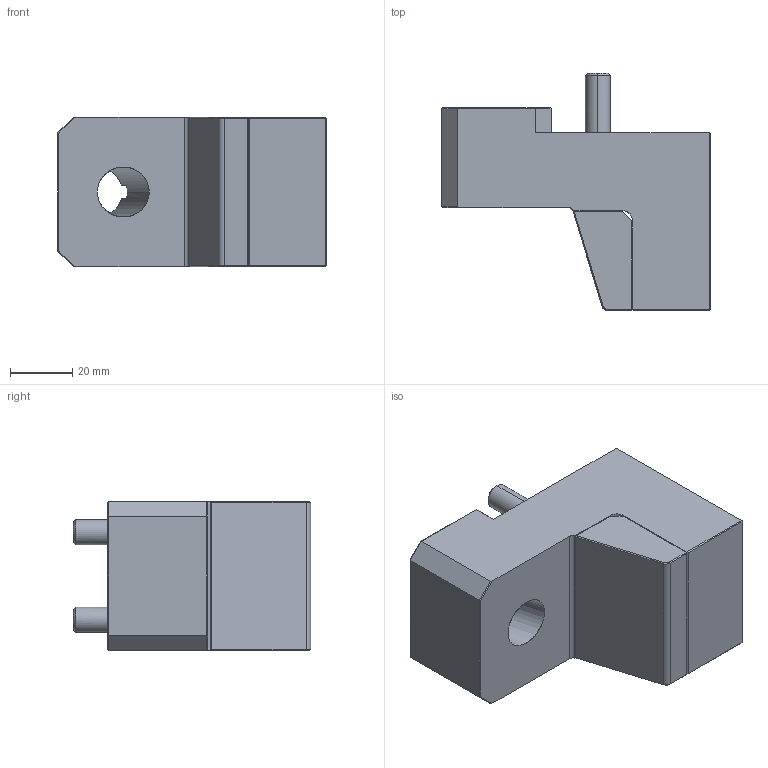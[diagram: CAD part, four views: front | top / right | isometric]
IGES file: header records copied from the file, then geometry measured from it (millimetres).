
Start section: START RECORD GO HERE.
Global section: file name: cg864857.igs; native system: DASSAULT SYSTEMES CATIA V5 R20 - www.3ds.com; preprocessor: CATIA Version 5 Release 20 ; author: Utente; organization: NB04-ASUS; date: 20201103.204627; units: millimetre
Bounding box: 86 x 76 x 48 mm (x, y, z)
Surface area: 34031.3 mm2 (no closed solid volume)
Topology: 0 solids, 0 shells, 152 faces, 678 edges, 672 vertices
Faces by surface type: plane 95, revolution 57
